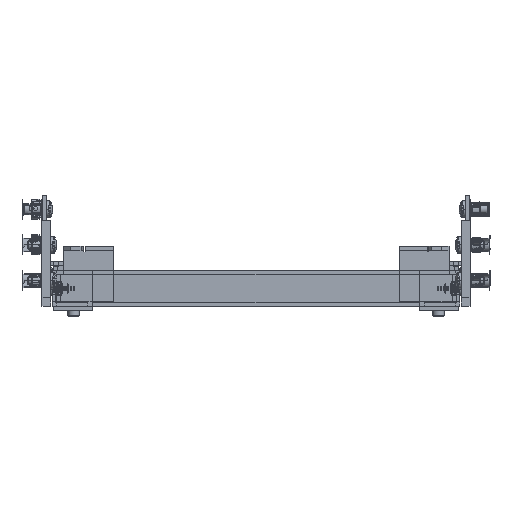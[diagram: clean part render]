
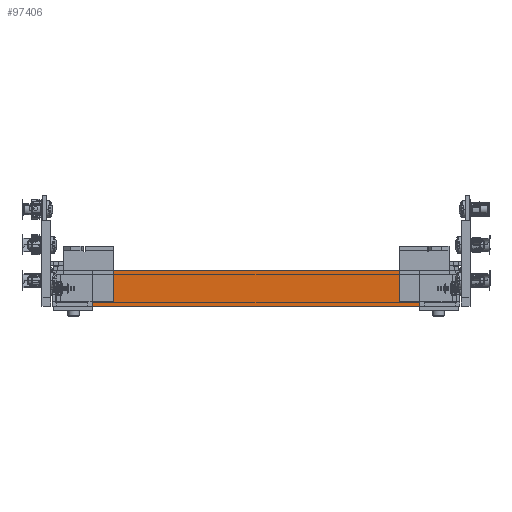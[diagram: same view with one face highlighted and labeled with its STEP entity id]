
A CAD part, front view. The second image highlights one B-rep face of the part: STEP entity #97406.
In plain terms, the highlighted planar face has unit normal (0, -1, 0) as drawn and (-1, 0, 0) by its records, which use the part's own axes.
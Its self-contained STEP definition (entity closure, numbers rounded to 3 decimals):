
#1526 = CARTESIAN_POINT ( 'NONE',  ( -841.51, -114.5, 25. ) ) ;
#4175 = ORIENTED_EDGE ( 'NONE', *, *, #8739, .T. ) ;
#8739 = EDGE_CURVE ( 'NONE', #38145, #96035, #58309, .T. ) ;
#8779 = PLANE ( 'NONE',  #118573 ) ;
#9751 = CARTESIAN_POINT ( 'NONE',  ( -841.51, -140.5, 0. ) ) ;
#11023 = CARTESIAN_POINT ( 'NONE',  ( -841.51, 114.5, 0. ) ) ;
#11715 = DIRECTION ( 'NONE',  ( 0., 0., -1. ) ) ;
#12380 = EDGE_CURVE ( 'NONE', #117546, #136101, #60734, .T. ) ;
#12745 = ORIENTED_EDGE ( 'NONE', *, *, #12380, .T. ) ;
#13285 = DIRECTION ( 'NONE',  ( 0., -1., 0. ) ) ;
#13786 = DIRECTION ( 'NONE',  ( 0., 0., -1. ) ) ;
#13914 = VERTEX_POINT ( 'NONE', #130761 ) ;
#16639 = DIRECTION ( 'NONE',  ( 0., 0., 1. ) ) ;
#18826 = EDGE_CURVE ( 'NONE', #13914, #128999, #69855, .T. ) ;
#20396 = ORIENTED_EDGE ( 'NONE', *, *, #18826, .F. ) ;
#23125 = CARTESIAN_POINT ( 'NONE',  ( -841.51, 114.5, 25. ) ) ;
#26467 = LINE ( 'NONE', #27216, #42629 ) ;
#27216 = CARTESIAN_POINT ( 'NONE',  ( -841.51, -114.5, 21.9 ) ) ;
#34969 = CARTESIAN_POINT ( 'NONE',  ( -841.51, 114.5, 2.5 ) ) ;
#38145 = VERTEX_POINT ( 'NONE', #45444 ) ;
#40368 = DIRECTION ( 'NONE',  ( 0., 0., 1. ) ) ;
#40397 = VERTEX_POINT ( 'NONE', #61614 ) ;
#42629 = VECTOR ( 'NONE', #16639, 1000. ) ;
#43414 = VECTOR ( 'NONE', #40368, 1000. ) ;
#45444 = CARTESIAN_POINT ( 'NONE',  ( -841.51, 114.5, 21.9 ) ) ;
#45895 = ORIENTED_EDGE ( 'NONE', *, *, #65107, .F. ) ;
#46436 = LINE ( 'NONE', #138442, #129233 ) ;
#49508 = VECTOR ( 'NONE', #113834, 1000. ) ;
#51950 = ORIENTED_EDGE ( 'NONE', *, *, #92913, .T. ) ;
#56998 = FACE_OUTER_BOUND ( 'NONE', #58475, .T. ) ;
#58027 = CARTESIAN_POINT ( 'NONE',  ( -841.51, 114.5, 2.5 ) ) ;
#58309 = LINE ( 'NONE', #34969, #88423 ) ;
#58475 = EDGE_LOOP ( 'NONE', ( #12745, #51950, #20396, #134136, #4175, #104535, #91223, #45895 ) ) ;
#60734 = LINE ( 'NONE', #129359, #43414 ) ;
#61614 = CARTESIAN_POINT ( 'NONE',  ( -841.51, -114.5, 0. ) ) ;
#65107 = EDGE_CURVE ( 'NONE', #117546, #40397, #115039, .T. ) ;
#67826 = CARTESIAN_POINT ( 'NONE',  ( -841.51, -114.5, 3.1 ) ) ;
#69522 = CARTESIAN_POINT ( 'NONE',  ( -841.51, -114.5, 21.9 ) ) ;
#69855 = LINE ( 'NONE', #23125, #95430 ) ;
#70825 = EDGE_CURVE ( 'NONE', #129335, #40397, #149273, .T. ) ;
#73774 = EDGE_CURVE ( 'NONE', #96035, #129335, #46436, .T. ) ;
#80364 = DIRECTION ( 'NONE',  ( 0., 0., -1. ) ) ;
#82601 = DIRECTION ( 'NONE',  ( 1., 0., 0. ) ) ;
#83493 = EDGE_CURVE ( 'NONE', #38145, #13914, #115361, .T. ) ;
#88423 = VECTOR ( 'NONE', #13786, 1000. ) ;
#89500 = CARTESIAN_POINT ( 'NONE',  ( -841.51, 114.5, 2.5 ) ) ;
#91223 = ORIENTED_EDGE ( 'NONE', *, *, #70825, .T. ) ;
#92732 = DIRECTION ( 'NONE',  ( 0., 0., 1. ) ) ;
#92913 = EDGE_CURVE ( 'NONE', #136101, #128999, #26467, .T. ) ;
#93150 = CARTESIAN_POINT ( 'NONE',  ( -841.51, -114.5, 2.5 ) ) ;
#95430 = VECTOR ( 'NONE', #13285, 1000. ) ;
#96035 = VERTEX_POINT ( 'NONE', #115601 ) ;
#97406 = ADVANCED_FACE ( 'NONE', ( #56998 ), #8779, .F. ) ;
#104535 = ORIENTED_EDGE ( 'NONE', *, *, #73774, .T. ) ;
#107475 = DIRECTION ( 'NONE',  ( 0., 0., -1. ) ) ;
#113834 = DIRECTION ( 'NONE',  ( 0., -1., 0. ) ) ;
#115039 = LINE ( 'NONE', #93150, #129895 ) ;
#115361 = LINE ( 'NONE', #58027, #120000 ) ;
#115601 = CARTESIAN_POINT ( 'NONE',  ( -841.51, 114.5, 3.1 ) ) ;
#117546 = VERTEX_POINT ( 'NONE', #67826 ) ;
#118573 = AXIS2_PLACEMENT_3D ( 'NONE', #89500, #82601, #107475 ) ;
#120000 = VECTOR ( 'NONE', #92732, 1000. ) ;
#128999 = VERTEX_POINT ( 'NONE', #1526 ) ;
#129233 = VECTOR ( 'NONE', #80364, 1000. ) ;
#129335 = VERTEX_POINT ( 'NONE', #11023 ) ;
#129359 = CARTESIAN_POINT ( 'NONE',  ( -841.51, -114.5, 2.5 ) ) ;
#129895 = VECTOR ( 'NONE', #11715, 1000. ) ;
#130761 = CARTESIAN_POINT ( 'NONE',  ( -841.51, 114.5, 25. ) ) ;
#134136 = ORIENTED_EDGE ( 'NONE', *, *, #83493, .F. ) ;
#136101 = VERTEX_POINT ( 'NONE', #69522 ) ;
#138442 = CARTESIAN_POINT ( 'NONE',  ( -841.51, 114.5, 3.1 ) ) ;
#149273 = LINE ( 'NONE', #9751, #49508 ) ;
